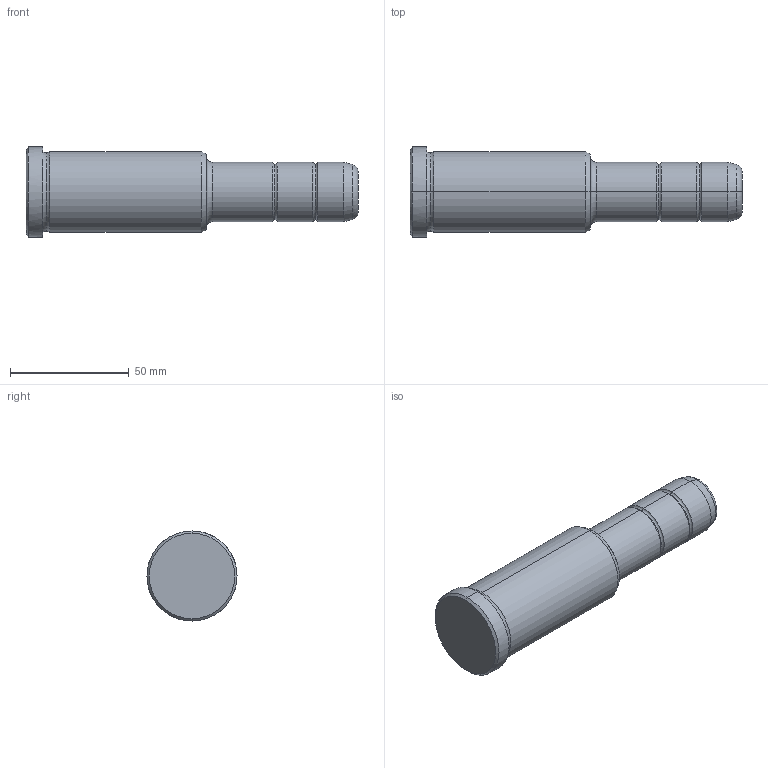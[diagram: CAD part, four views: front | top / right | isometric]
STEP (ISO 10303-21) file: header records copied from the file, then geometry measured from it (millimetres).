
FILE_DESCRIPTION(('CATIA V5 STEP Exchange'),'2;1');
FILE_NAME('C:\Users\Utente\Desktop\IO LAVORO\3D X SITO CF\X SITO\PLASTICA\351\351-25X76X140.stp','2021-09-07T11:34:45+00:00',('none'),('none'),'CATIA Version 5 Release 20 GA (IN-10)','CATIA V5 STEP AP203','none');
FILE_SCHEMA(('CONFIG_CONTROL_DESIGN'));
Length unit declared in the file: millimetre
Products named in the file (1): 351-25X76X140
Bounding box: 140 x 38 x 38 mm (x, y, z)
Volume: 101212.2 mm3; surface area: 15190.6 mm2
Topology: 1 solids, 1 shells, 36 faces, 102 edges, 70 vertices
Faces by surface type: torus 16, cylinder 10, cone 6, plane 4
Entity records: 1292 total; most frequent: CARTESIAN_POINT 321, ORIENTED_EDGE 204, DIRECTION 166, AXIS2_PLACEMENT_3D 115, EDGE_CURVE 102, CIRCLE 78, VERTEX_POINT 70, EDGE_LOOP 38
